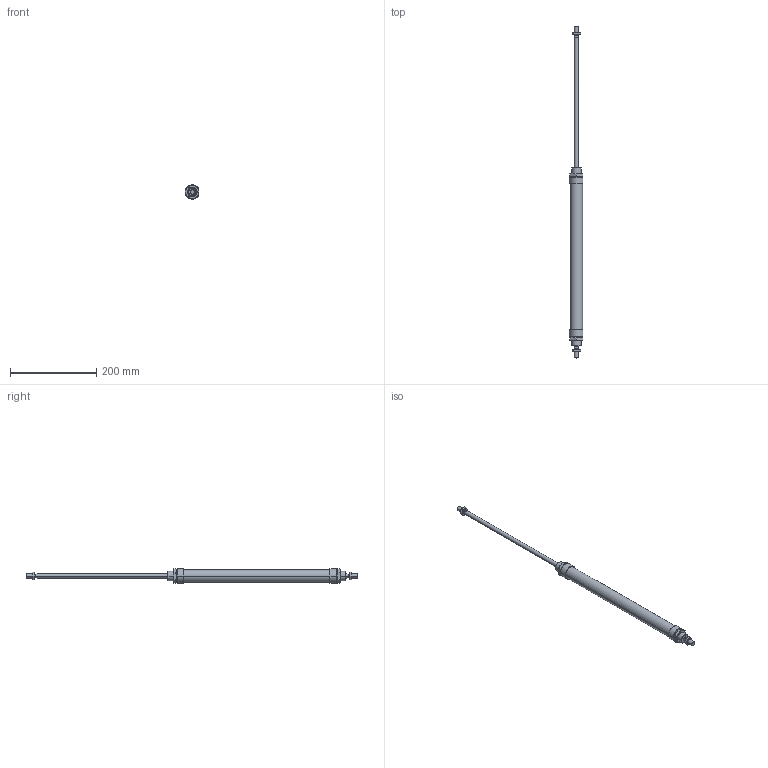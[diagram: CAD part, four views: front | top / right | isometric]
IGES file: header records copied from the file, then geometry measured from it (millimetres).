
Global section: file name: No Iges File Name specified; native system: AutoDesk Inventor R6.0; preprocessor: AutoDesk Inventor Iges Exporter R6.0; author: No Author specified; organization: No Organization specified; date: 20030403.072532; units: millimetre
Bounding box: 31.5 x 769 x 34.64 mm (x, y, z)
Volume: 300732.1 mm3; surface area: 82270.5 mm2
Topology: 6 solids, 6 shells, 184 faces, 396 edges, 232 vertices
Faces by surface type: cone 68, plane 60, bspline 30, cylinder 20, revolution 6
